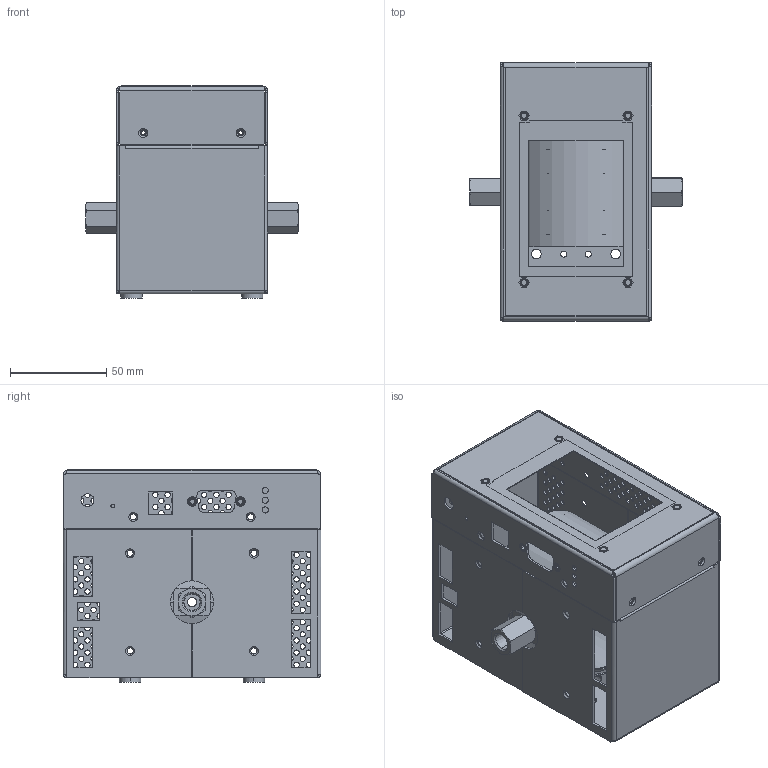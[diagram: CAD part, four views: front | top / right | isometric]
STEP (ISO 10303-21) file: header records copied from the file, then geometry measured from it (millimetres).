
FILE_DESCRIPTION((''),'2;1');
FILE_NAME('BGA244HP_ASM','2022-02-10T10:42:48',('gaw'),(''),'CREO PARAMETRIC BY PTC INC, 2021164','CREO PARAMETRIC BY PTC INC, 2021164','');
FILE_SCHEMA(('CONFIG_CONTROL_DESIGN'));
Length unit declared in the file: inch
Products named in the file (20): QQQQQ_1_1_1_1; CLS-440-1_2_1_1_1; QQQQQ_ASM_1_ASM_1_ASM_1_ASM; HHHHH_1_1_1_1; HHHHHH_ASM_1_ASM_1_ASM_1_ASM; GGGGG_1_1_1_1; SOS-440-6_5_1_1_1; FEOX-440_2_1_1_1; GGGGG_ASM_1_ASM_1_ASM_1_ASM; 0-188_FOOT_RUBBER_3_1_1_1; TTTTT1_1_1_1_1; TTTTT_1_1_1_1; TTTTT_ASM_1_ASM_1_ASM_1_ASM; BGA244_ASM_1_ASM_1_ASM_1_ASM; BGA244_ASM_ASM_1_ASM_1_ASM; 3DBGA244_ASM_1_ASM; 7-02342-721_ACOUSTIC_CHAMBER; SS_2_A_28131; ASM_SS_2_A_CYLINDER_ASM; BGA244HP_ASM
Assembly tree (30 placements, depth 6):
  BGA244HP_ASM
    3DBGA244_ASM_1_ASM
      BGA244_ASM_ASM_1_ASM_1_ASM
        BGA244_ASM_1_ASM_1_ASM_1_ASM
          QQQQQ_ASM_1_ASM_1_ASM_1_ASM
            QQQQQ_1_1_1_1
            CLS-440-1_2_1_1_1  x2
          HHHHHH_ASM_1_ASM_1_ASM_1_ASM
            HHHHH_1_1_1_1
            CLS-440-1_2_1_1_1  x2
          GGGGG_ASM_1_ASM_1_ASM_1_ASM
            GGGGG_1_1_1_1
            SOS-440-6_5_1_1_1  x4
            FEOX-440_2_1_1_1  x2
          0-188_FOOT_RUBBER_3_1_1_1  x4
          TTTTT_ASM_1_ASM_1_ASM_1_ASM
            TTTTT1_1_1_1_1
            TTTTT_1_1_1_1
    ASM_SS_2_A_CYLINDER_ASM
      7-02342-721_ACOUSTIC_CHAMBER
      SS_2_A_28131  x2
Bounding box: 110.74 x 134.14 x 110.34 mm (x, y, z)
Volume: 188211.5 mm3; surface area: 193610.6 mm2
Topology: 22 solids, 50 shells, 1268 faces, 3428 edges, 2232 vertices
Faces by surface type: cylinder 766, plane 366, cone 128, bspline 8
Entity records: 37996 total; most frequent: DIRECTION 7020, CARTESIAN_POINT 6708, ORIENTED_EDGE 6012, EDGE_CURVE 3048, AXIS2_PLACEMENT_3D 2831, VERTEX_POINT 2006, EDGE_LOOP 1644, CIRCLE 1641
